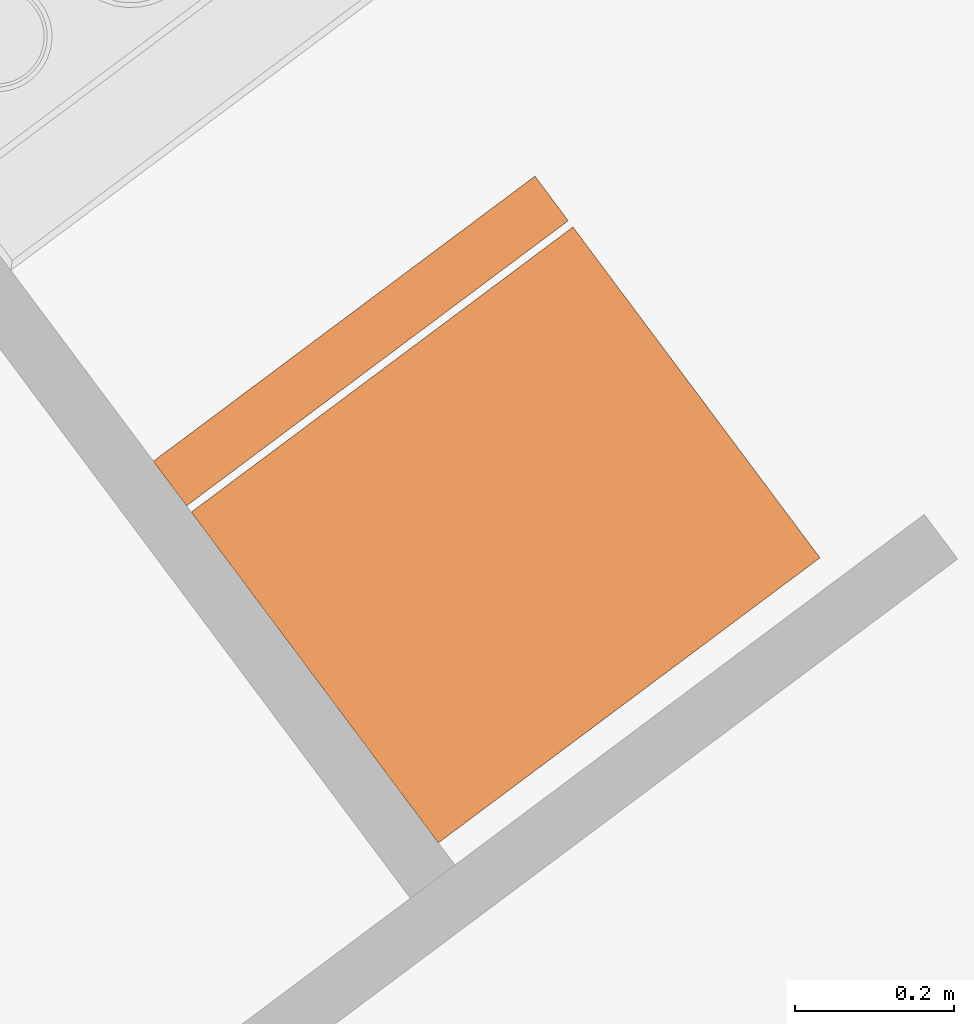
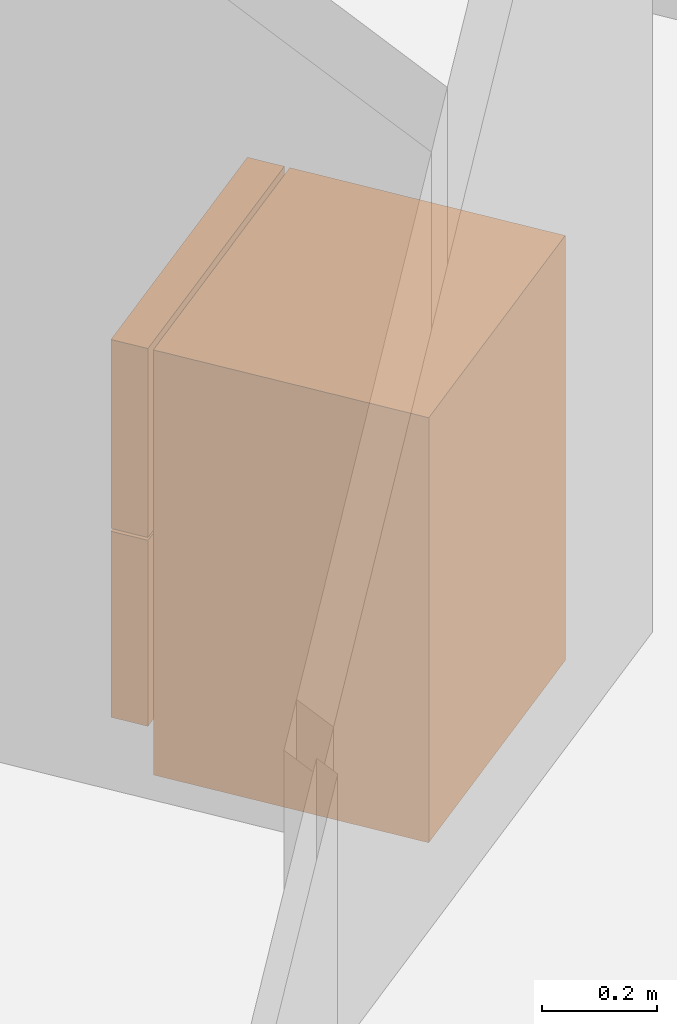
# One storey, part 111 of 121: 1 proxy.
"""IFC2X3 building model written with IfcOpenShell, lengths in metres."""

from ifc_helpers import new_model, entity, si_unit, converted_unit, derived_unit, money_unit, direction, frame, origin_with_axes, place, context, subcontext, project, spatial, open_shell, faceted_brep, surface_model, source, transform, mapped, type_object, element, save


model = new_model("IFC2X3")

# Units and contexts
model_context = context("Model", 3, precision=1e-05, world=origin_with_axes(), true_north=direction((0.0, 1.0)))
body_context = subcontext(model_context, "Body", "Model", "MODEL_VIEW")
ifc_project = project(units=[si_unit("LENGTHUNIT", "METRE"), si_unit("AREAUNIT", "SQUARE_METRE"), si_unit("VOLUMEUNIT", "CUBIC_METRE"), converted_unit("PLANEANGLEUNIT", "DEGREE", entity("IfcPlaneAngleMeasure", 0.0174532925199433), si_unit("PLANEANGLEUNIT", "RADIAN"), dimensions=[0, 0, 0, 0, 0, 0, 0]), money_unit("CHF"), converted_unit("TIMEUNIT", "Year", entity("IfcTimeMeasure", 31557600.0), si_unit("TIMEUNIT", "SECOND"), dimensions=[0, 0, 1, 0, 0, 0, 0]), si_unit("MASSUNIT", "GRAM", prefix="KILO"), si_unit("THERMODYNAMICTEMPERATUREUNIT", "DEGREE_CELSIUS"), si_unit("LUMINOUSINTENSITYUNIT", "LUMEN"), si_unit("ENERGYUNIT", "JOULE", prefix="MEGA"), derived_unit("THERMALCONDUCTANCEUNIT", [(si_unit("POWERUNIT", "WATT"), 1), (si_unit("LENGTHUNIT", "METRE"), -1), (si_unit("THERMODYNAMICTEMPERATUREUNIT", "KELVIN"), -1)]), derived_unit("SPECIFICHEATCAPACITYUNIT", [(si_unit("ENERGYUNIT", "JOULE"), 1), (si_unit("MASSUNIT", "GRAM", prefix="KILO"), -1), (si_unit("THERMODYNAMICTEMPERATUREUNIT", "KELVIN"), -1)]), derived_unit("MASSDENSITYUNIT", [(si_unit("MASSUNIT", "GRAM", prefix="KILO"), 1), (si_unit("VOLUMEUNIT", "CUBIC_METRE"), -1)])], contexts=[model_context])

# Site, building, storey
site_placement = place(None, origin_with_axes())
site = spatial("IfcSite", under=ifc_project, at=site_placement, Name="Site", CompositionType="ELEMENT")
building_placement = place(site_placement, origin_with_axes())
building = spatial("IfcBuilding", under=site, at=building_placement, Name="Bâtiment", CompositionType="ELEMENT")
storey_placement = place(building_placement, frame((0.0, 0.0, 2.75), z_axis=(0.0, 0.0, 1.0), x_axis=(1.0, 0.0, 0.0)))
storey = spatial("IfcBuildingStorey", under=building, at=storey_placement, Name="Etage 1", CompositionType="ELEMENT", Elevation=2.75)

# Proxy
building_element_proxy_type = type_object("IfcBuildingElementProxyType", PredefinedType="NOTDEFINED")
shared_shape = source(origin_with_axes(), body_context, "Body", "SurfaceModel", [
    faceted_brep([(0.0, 0.08, 0.1), (0.0, 0.08, 0.9), (-0.6, 0.08, 0.9), (-0.6, 0.08, 0.1), (0.0, 0.6, 0.1), (0.0, 0.6, 0.9), (-0.6, 0.6, 0.9), (-0.6, 0.6, 0.1)], [[[0, 1, 2, 3]], [[4, 5, 1, 0]], [[1, 5, 6, 2]], [[3, 2, 6, 7]], [[0, 3, 7, 4]], [[7, 6, 5, 4]]]),
    faceted_brep([(0.0, 0.08, 0.0), (0.0, 0.08, 0.1), (-0.6, 0.08, 0.1), (-0.6, 0.08, 0.0), (0.0, 0.6, 0.0), (0.0, 0.6, 0.1), (-0.6, 0.6, 0.1), (-0.6, 0.6, 0.0)], [[[0, 1, 2, 3]], [[4, 5, 1, 0]], [[1, 5, 6, 2]], [[3, 2, 6, 7]], [[0, 3, 7, 4]], [[7, 6, 5, 4]]]),
    faceted_brep([(0.0, 0.07, 0.1), (0.0, 0.0, 0.1), (-0.6, 0.0, 0.1), (-0.6, 0.07, 0.1), (0.0, 0.07000000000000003, 0.494), (0.0, 0.0, 0.494), (-0.6, 0.0, 0.494), (-0.6, 0.07000000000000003, 0.494)], [[[0, 1, 2, 3]], [[4, 5, 1, 0]], [[1, 5, 6, 2]], [[3, 2, 6, 7]], [[0, 3, 7, 4]], [[7, 6, 5, 4]]]),
    faceted_brep([(0.0, 0.07, 0.5), (0.0, 0.0, 0.5), (-0.6, 0.0, 0.5), (-0.6, 0.07, 0.5), (0.0, 0.07000000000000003, 0.9), (0.0, 0.0, 0.9), (-0.6, 0.0, 0.9), (-0.6, 0.07000000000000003, 0.9)], [[[0, 1, 2, 3]], [[4, 5, 1, 0]], [[1, 5, 6, 2]], [[3, 2, 6, 7]], [[0, 3, 7, 4]], [[7, 6, 5, 4]]]),
    surface_model("IfcShellBasedSurfaceModel", [(-0.6, -0.03, 0.3), (-0.6, 0.0, 0.3), (-0.6, 0.0, 0.4940000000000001), (-0.6, -0.03, 0.4940000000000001)], [open_shell([[[0, 1, 2, 3]]])]),
    surface_model("IfcShellBasedSurfaceModel", [(-0.6, -0.03, 0.3), (-0.57, -0.03, 0.3), (-0.57, -0.03, 0.4940000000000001), (-0.6, -0.03, 0.4940000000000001)], [open_shell([[[0, 1, 2, 3]]])]),
    surface_model("IfcShellBasedSurfaceModel", [(-0.6, -0.03, 0.5), (-0.6, 0.0, 0.5), (-0.6, 0.0, 0.7), (-0.6, -0.03, 0.7)], [open_shell([[[0, 1, 2, 3]]])]),
    surface_model("IfcShellBasedSurfaceModel", [(-0.6, -0.03, 0.5), (-0.57, -0.03, 0.5), (-0.57, -0.03, 0.7), (-0.6, -0.03, 0.7)], [open_shell([[[0, 1, 2, 3]]])]),
])
proxy_placement = place(storey_placement, frame((9536.23962308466, -1072.795539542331, 57.7), z_axis=(0.0, 0.0, 1.0), x_axis=(-0.8011628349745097, -0.5984464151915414, 0.0)))
element("IfcBuildingElementProxy", 1, at=proxy_placement, inside=storey, type_object=building_element_proxy_type, Name="Obj.-019", context=body_context, shape_type="MappedRepresentation", body=[
    mapped(shared_shape, transform((0.0, 0.0, 0.0))),
])

save(model, "model.ifc")
